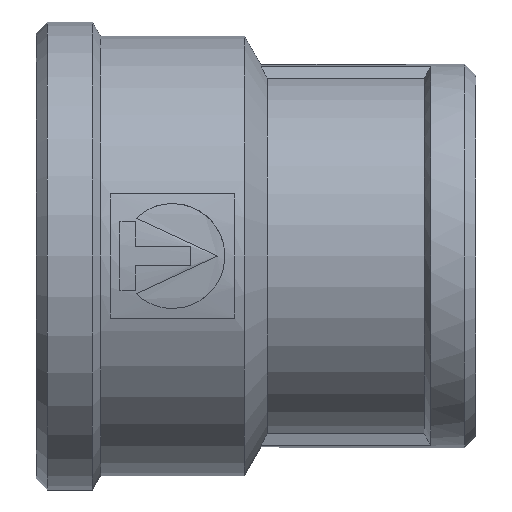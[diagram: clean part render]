
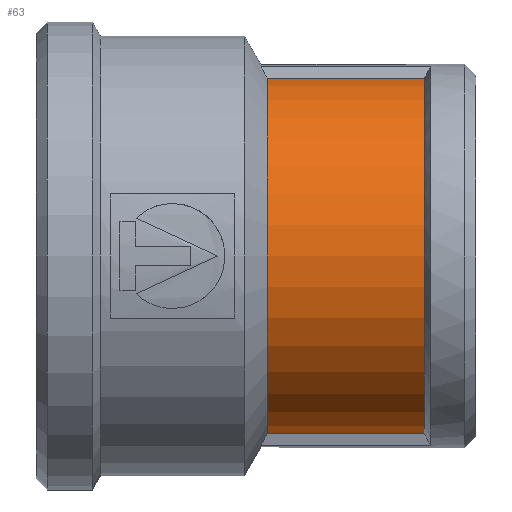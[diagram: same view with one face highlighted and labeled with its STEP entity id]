
A CAD part, left-side view. The second image highlights one B-rep face of the part: STEP entity #63.
In plain terms, the highlighted cylindrical face has radius 16 mm (diameter 32 mm), a partial arc.
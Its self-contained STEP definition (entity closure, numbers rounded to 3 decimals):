
#63=ADVANCED_FACE('',(#410),#412,.T.);
#410=FACE_BOUND('',#411,.T.);
#411=EDGE_LOOP('',(#1746,#1747,#1748,#1749,#1750));
#412=CYLINDRICAL_SURFACE('',#413,16.);
#413=AXIS2_PLACEMENT_3D('',#414,#415,#416);
#414=CARTESIAN_POINT('',(0.,-39.,0.));
#415=DIRECTION('',(0.,1.,0.));
#416=DIRECTION('',(-1.,0.,0.));
#1746=ORIENTED_EDGE('',*,*,#2884,.F.);
#1747=ORIENTED_EDGE('',*,*,#2883,.F.);
#1748=ORIENTED_EDGE('',*,*,#2880,.F.);
#1749=ORIENTED_EDGE('',*,*,#2877,.T.);
#1750=ORIENTED_EDGE('',*,*,#2876,.T.);
#2876=EDGE_CURVE('',#3419,#3417,#3420,.F.);
#2877=EDGE_CURVE('',#3421,#3419,#3422,.F.);
#2880=EDGE_CURVE('',#3421,#3426,#3427,.F.);
#2883=EDGE_CURVE('',#3426,#3429,#3431,.T.);
#2884=EDGE_CURVE('',#3429,#3417,#3432,.T.);
#3417=VERTEX_POINT('',#4371);
#3419=VERTEX_POINT('',#4377);
#3420=CIRCLE('',#4378,16.);
#3421=VERTEX_POINT('',#4382);
#3422=CIRCLE('',#4383,16.);
#3426=VERTEX_POINT('',#4397);
#3427=LINE('',#4398,#4399);
#3429=VERTEX_POINT('',#4407);
#3431=CIRCLE('',#4414,16.);
#3432=LINE('',#4418,#4419);
#4371=CARTESIAN_POINT('',(-2.784,-20.5,-15.756));
#4377=CARTESIAN_POINT('',(-16.,-20.5,0.));
#4378=AXIS2_PLACEMENT_3D('',#4379,#4380,#4381);
#4379=CARTESIAN_POINT('',(0.,-20.5,0.));
#4380=DIRECTION('',(0.,1.,0.));
#4381=DIRECTION('',(-0.174,0.,-0.985));
#4382=CARTESIAN_POINT('',(-2.784,-20.5,15.756));
#4383=AXIS2_PLACEMENT_3D('',#4384,#4385,#4386);
#4384=CARTESIAN_POINT('',(0.,-20.5,0.));
#4385=DIRECTION('',(0.,1.,0.));
#4386=DIRECTION('',(-1.,0.,0.));
#4397=CARTESIAN_POINT('',(-2.784,-34.423,15.756));
#4398=CARTESIAN_POINT('',(-2.784,-34.423,15.756));
#4399=VECTOR('',#4400,1.);
#4400=DIRECTION('',(0.,1.,0.));
#4407=CARTESIAN_POINT('',(-2.784,-34.423,-15.756));
#4414=AXIS2_PLACEMENT_3D('',#4415,#4416,#4417);
#4415=CARTESIAN_POINT('',(0.,-34.423,0.));
#4416=DIRECTION('',(0.,-1.,0.));
#4417=DIRECTION('',(-0.174,0.,0.985));
#4418=CARTESIAN_POINT('',(-2.784,-34.423,-15.756));
#4419=VECTOR('',#4420,1.);
#4420=DIRECTION('',(0.,1.,0.));
